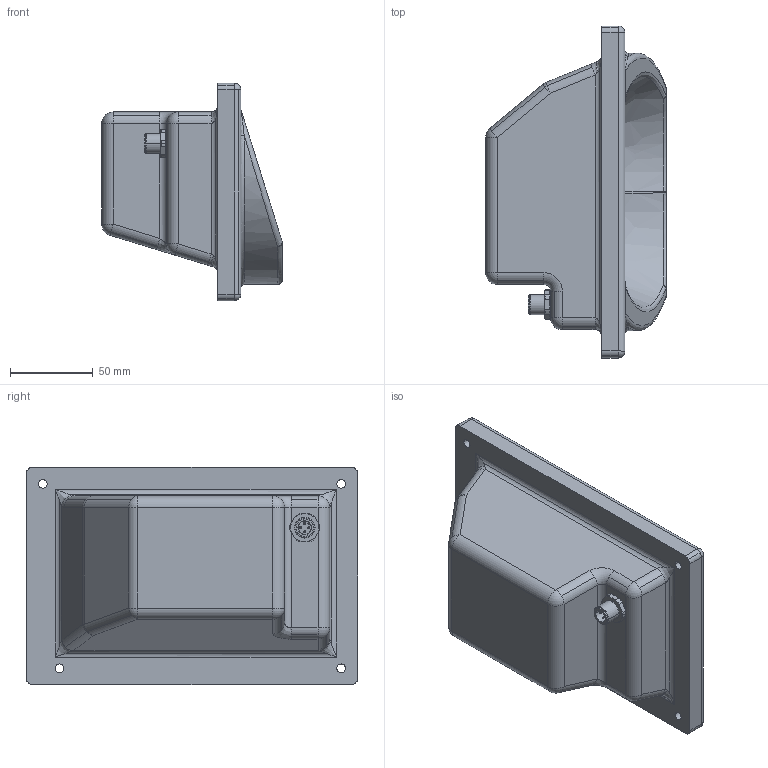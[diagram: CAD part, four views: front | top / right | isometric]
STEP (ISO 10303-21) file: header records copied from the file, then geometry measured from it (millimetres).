
FILE_DESCRIPTION((''),'2;1');
FILE_NAME('C:\Dokumente und Einstellungen\Kramp\Eigene Dateien\Microsonic Nacharbeit 2\Rest\STP\wms-501_RT.stp','2005-08-11T13:24:22',('Kramp'),(''),'Autodesk Inventor 7','Autodesk Inventor 7','');
FILE_SCHEMA(('AUTOMOTIVE_DESIGN { 1 0 10303 214 1 1 1 1 }'));
Length unit declared in the file: millimetre
Products named in the file (1): wms-501_RT
Bounding box: 109 x 200 x 131.1 mm (x, y, z)
Volume: 975385.6 mm3; surface area: 102807.3 mm2
Topology: 1 solids, 1 shells, 284 faces, 686 edges, 405 vertices
Faces by surface type: cylinder 109, bspline 78, plane 43, sphere 21, cone 20, torus 13
Entity records: 13515 total; most frequent: CARTESIAN_POINT 7163, DIRECTION 1341, ORIENTED_EDGE 1338, EDGE_CURVE 669, AXIS2_PLACEMENT_3D 572, VERTEX_POINT 405, CIRCLE 335, EDGE_LOOP 310
